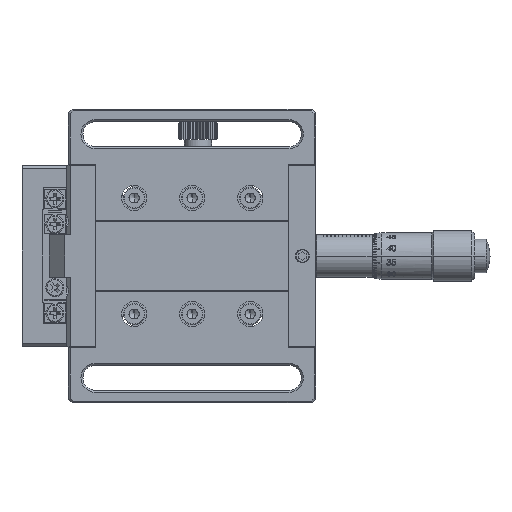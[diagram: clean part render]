
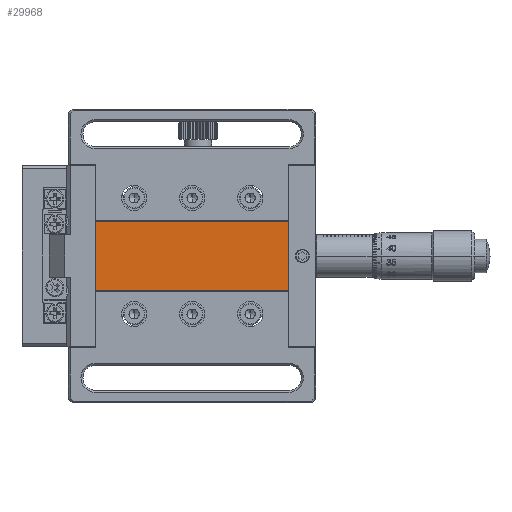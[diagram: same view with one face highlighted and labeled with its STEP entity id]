
A CAD part, front view. The second image highlights one B-rep face of the part: STEP entity #29968.
In plain terms, the highlighted planar face has unit normal (0, -1, 0).
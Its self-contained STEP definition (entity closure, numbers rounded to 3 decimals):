
#17013 = CARTESIAN_POINT ( 'NONE',  ( -25., 0.2, 9. ) ) ;
#17015 = CARTESIAN_POINT ( 'NONE',  ( 25., 0.2, -9. ) ) ;
#17018 = CARTESIAN_POINT ( 'NONE',  ( -25., 0.2, -9. ) ) ;
#27975 = DIRECTION ( 'NONE',  ( 1., 0., 0. ) ) ;
#27977 = VECTOR ( 'NONE', #27975, 1000. ) ;
#27978 = CARTESIAN_POINT ( 'NONE',  ( -32., 0.2, 9. ) ) ;
#27980 = LINE ( 'NONE', #27978, #27977 ) ;
#27986 = CARTESIAN_POINT ( 'NONE',  ( 25., 0.2, 9. ) ) ;
#27988 = DIRECTION ( 'NONE',  ( 0., 0., 1. ) ) ;
#27989 = VECTOR ( 'NONE', #27988, 1000. ) ;
#27991 = CARTESIAN_POINT ( 'NONE',  ( 25., 0.2, 9. ) ) ;
#27992 = LINE ( 'NONE', #27991, #27989 ) ;
#27996 = DIRECTION ( 'NONE',  ( 1., 0., 0. ) ) ;
#27997 = VECTOR ( 'NONE', #27996, 1000. ) ;
#27999 = CARTESIAN_POINT ( 'NONE',  ( -32., 0.2, -9. ) ) ;
#28000 = LINE ( 'NONE', #27999, #27997 ) ;
#28151 = PLANE ( 'NONE',  #28365 ) ;
#28155 = FACE_OUTER_BOUND ( 'NONE', #29969, .T. ) ;
#28353 = DIRECTION ( 'NONE',  ( 0., 0., -1. ) ) ;
#28354 = VECTOR ( 'NONE', #28353, 1000. ) ;
#28355 = CARTESIAN_POINT ( 'NONE',  ( -25., 0.2, 23.7 ) ) ;
#28357 = LINE ( 'NONE', #28355, #28354 ) ;
#28360 = DIRECTION ( 'NONE',  ( 0., 0., 1. ) ) ;
#28361 = DIRECTION ( 'NONE',  ( 0., 1., 0. ) ) ;
#28363 = CARTESIAN_POINT ( 'NONE',  ( -32., 0.2, 9. ) ) ;
#28365 = AXIS2_PLACEMENT_3D ( 'NONE', #28363, #28361, #28360 ) ;
#29793 = VERTEX_POINT ( 'NONE', #17018 ) ;
#29794 = ORIENTED_EDGE ( 'NONE', *, *, #29944, .T. ) ;
#29795 = VERTEX_POINT ( 'NONE', #17015 ) ;
#29796 = VERTEX_POINT ( 'NONE', #17013 ) ;
#29944 = EDGE_CURVE ( 'NONE', #29793, #29795, #28000, .T. ) ;
#29945 = ORIENTED_EDGE ( 'NONE', *, *, #29946, .T. ) ;
#29946 = EDGE_CURVE ( 'NONE', #29795, #29947, #27992, .T. ) ;
#29947 = VERTEX_POINT ( 'NONE', #27986 ) ;
#29948 = ORIENTED_EDGE ( 'NONE', *, *, #29949, .F. ) ;
#29949 = EDGE_CURVE ( 'NONE', #29796, #29947, #27980, .T. ) ;
#29968 = ADVANCED_FACE ( 'NONE', ( #28155 ), #28151, .F. ) ;
#29969 = EDGE_LOOP ( 'NONE', ( #29970, #29794, #29945, #29948 ) ) ;
#29970 = ORIENTED_EDGE ( 'NONE', *, *, #29971, .T. ) ;
#29971 = EDGE_CURVE ( 'NONE', #29796, #29793, #28357, .T. ) ;
